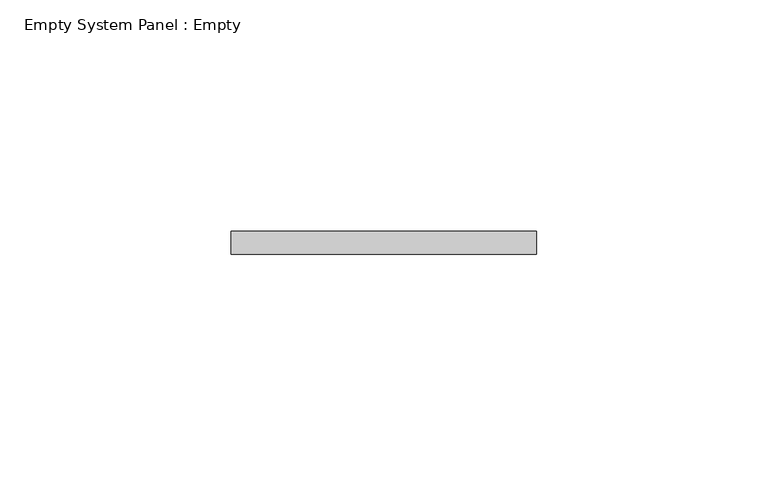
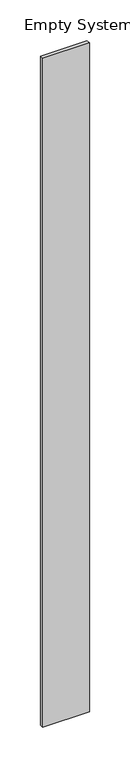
"""IFC4 building model written with IfcOpenShell, lengths in millimetres: plate geometry, Empty System Panel : Empty."""

from ifc_helpers import new_model, si_unit, origin, origin_with_axes, place, context, project, spatial, polyline, outline, extrude, source, transform, mapped, element, save


def empty_system_panel_empty_5cad0f82(model_context):
    return source(origin(), model_context, "Body", "SweptSolid", [
        extrude(outline(polyline([(33.0000002, 97.5), (-33.0000002, 97.5), (-33.0000002, 102.5), (33.0000002, 102.5), (33.0000002, 97.5)])), origin_with_axes(), (0.0, 0.0, 1.0), 1000.0),
    ])


if __name__ == "__main__":
    model = new_model("IFC4")
    model_context = context("Model", 3, world=origin())
    ifc_project = project(units=[si_unit("LENGTHUNIT", "METRE", prefix="MILLI")], contexts=[model_context])
    site = spatial("IfcSite", under=ifc_project)
    building = spatial("IfcBuilding", under=site)
    placement = place(None, origin())
    empty_system_panel_empty_shape = empty_system_panel_empty_5cad0f82(model_context)
    element("IfcPlate", 1, ObjectType="Empty System Panel : Empty", at=placement, inside=building, context=model_context, shape_type="MappedRepresentation", body=[
        mapped(empty_system_panel_empty_shape, transform((0.0, 0.0, 0.0), x_axis=(1.0, 0.0, 0.0), y_axis=(0.0, 1.0, 0.0), z_axis=(0.0, 0.0, 1.0))),
    ])
    save(model, "model.ifc")
